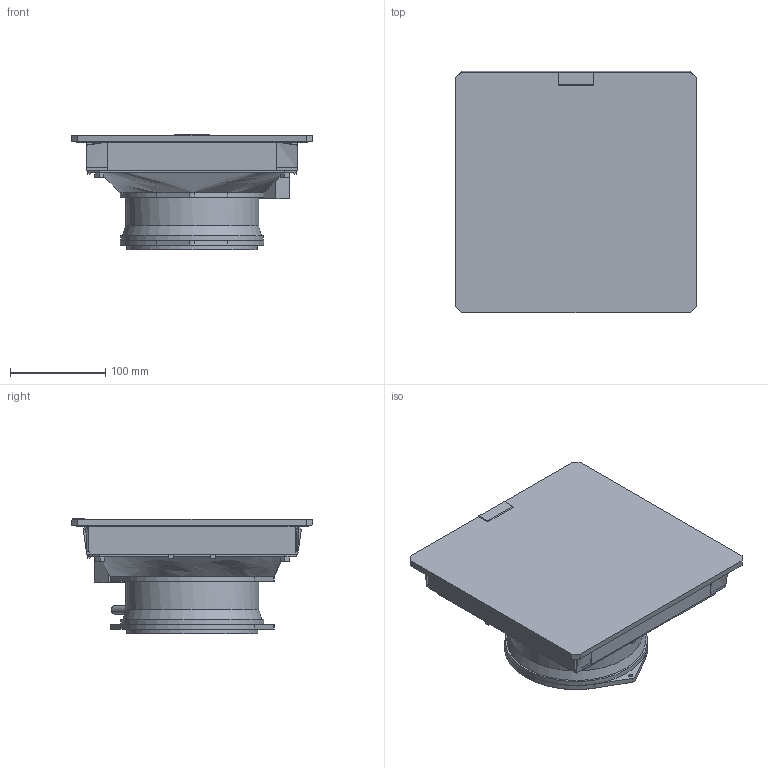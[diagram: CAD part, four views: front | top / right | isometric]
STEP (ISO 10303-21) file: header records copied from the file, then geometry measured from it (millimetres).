
FILE_DESCRIPTION( ( 'STEP AP214' ), '1' );
FILE_NAME( 'p:/temp/worker_128/temp/exporttempdir_1780_608_XIGhI/format_0/EF300R5(0).stp', '2021-03-15T16:35:27', ( 'License CC BY-ND 4.0' ), ( 'CADENAS' ), ' ', 'PARTsolutions', ' ' );
FILE_SCHEMA( ( 'AUTOMOTIVE_DESIGN { 1 0 10303 214 1 1 1 1 }' ) );
Length unit declared in the file: millimetre
Products named in the file (1): _EF300R5(0)
Bounding box: 252 x 252.7 x 121.29 mm (x, y, z)
Volume: 3535410.4 mm3; surface area: 212748 mm2
Topology: 1 solids, 1 shells, 215 faces, 594 edges, 398 vertices
Faces by surface type: plane 186, cylinder 14, bspline 13, cone 2
Full cylindrical faces by diameter (mm): 4.2 x2, 8.6 x1, 137 x1, 139.462 x1, 149.462 x1
Entity records: 8792 total; most frequent: CARTESIAN_POINT 1796, ORIENTED_EDGE 1160, DIRECTION 935, EDGE_CURVE 580, LINE 469, VECTOR 469, VERTEX_POINT 393, EDGE_LOOP 243
